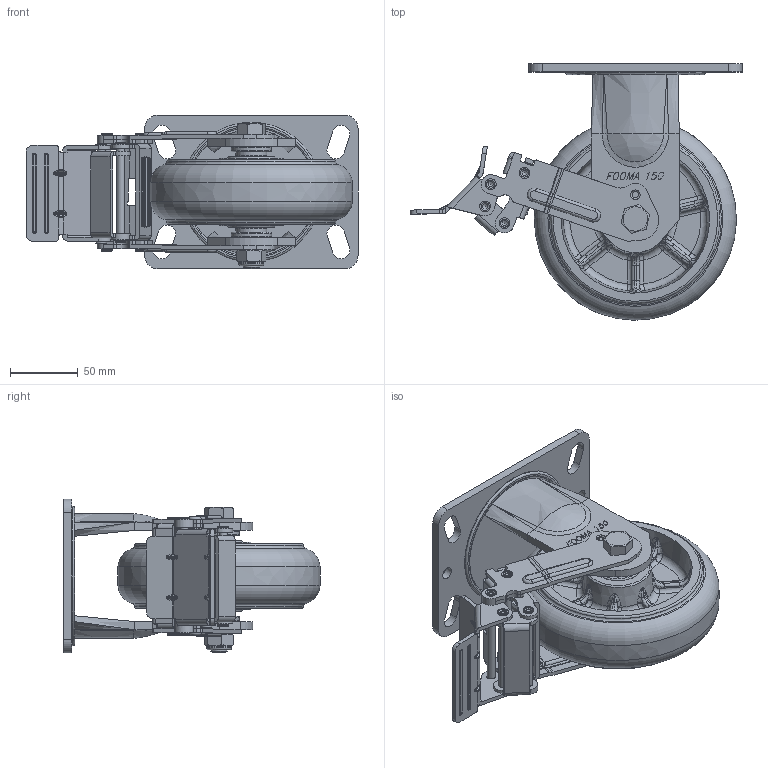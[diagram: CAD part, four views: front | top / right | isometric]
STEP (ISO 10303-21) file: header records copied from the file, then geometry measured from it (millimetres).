
FILE_DESCRIPTION(/* description */ (''),/* implementation_level */ '2;1');
FILE_NAME(/* name */ 'E:\★.DWG\PMH-SERIES\3D\홈페이지용\20180122-STEP\PMH-150-BRF-MUD.stp',/* time_stamp */ '2018-01-22T14:39:05+09:00',/* author */ ('장용하'),/* organization */ (''),/* preprocessor_version */ 'ST-DEVELOPER v16.13',/* originating_system */ 'Autodesk Inventor 2018',/* authorisation */ '');
FILE_SCHEMA (('AUTOMOTIVE_DESIGN { 1 0 10303 214 3 1 1 }'));
Length unit declared in the file: millimetre
Products named in the file (1): PMH-150-BRF-MUD_Shrinkwrap_1
Bounding box: 245.92 x 189.99 x 114 mm (x, y, z)
Volume: 780846.8 mm3; surface area: 199196.6 mm2
Topology: 3 solids, 3 shells, 2205 faces, 5710 edges, 3575 vertices
Faces by surface type: plane 1206, cylinder 493, bspline 381, torus 94, cone 23, sphere 8
Full cylindrical faces by diameter (mm): 4 x4, 5 x2, 6 x4, 6.2 x13, 7.7 x2, 8 x10, 9 x2, 12 x1, 18.5 x1, 21.667 x2, 21.867 x2, 22.9 x2, 28.133 x2, 28.333 x2, 30 x2, 35 x2, 102.5 x1, 103.5 x1, 125 x2
Entity records: 77442 total; most frequent: CARTESIAN_POINT 23013, ORIENTED_EDGE 11110, DIRECTION 10221, EDGE_CURVE 5555, LINE 3621, VECTOR 3621, VERTEX_POINT 3548, AXIS2_PLACEMENT_3D 3300
